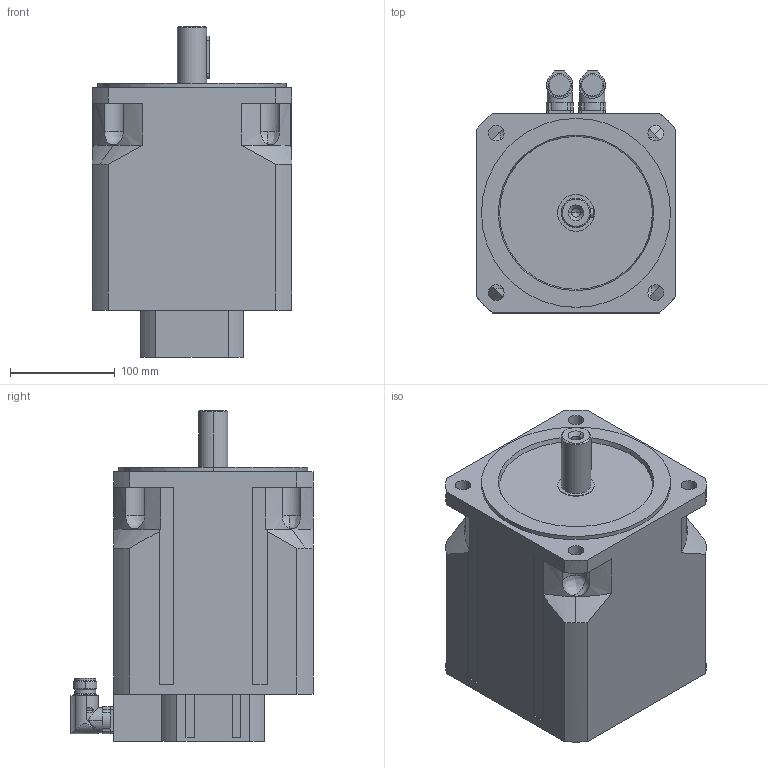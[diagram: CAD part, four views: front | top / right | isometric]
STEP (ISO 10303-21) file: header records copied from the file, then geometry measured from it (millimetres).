
FILE_DESCRIPTION(('STEP AP203'),'2;1');
FILE_NAME('MT7-3200.stp','2006-08-28T20:29:20',(''),(''),'2005.2.102','THINKDESIGN','');
FILE_SCHEMA(('CONFIG_CONTROL_DESIGN'));
Length unit declared in the file: millimetre
Bounding box: 190 x 230.5 x 315 mm (x, y, z)
Volume: 8001339.1 mm3; surface area: 285469.2 mm2
Topology: 3 solids, 3 shells, 275 faces, 749 edges, 481 vertices
Faces by surface type: cylinder 120, plane 107, bspline 48
Full cylindrical faces by diameter (mm): 20 x2
Entity records: 9842 total; most frequent: CARTESIAN_POINT 2891, ORIENTED_EDGE 1478, DIRECTION 1427, EDGE_CURVE 739, AXIS2_PLACEMENT_3D 539, VERTEX_POINT 481, VECTOR 349, LINE 349
